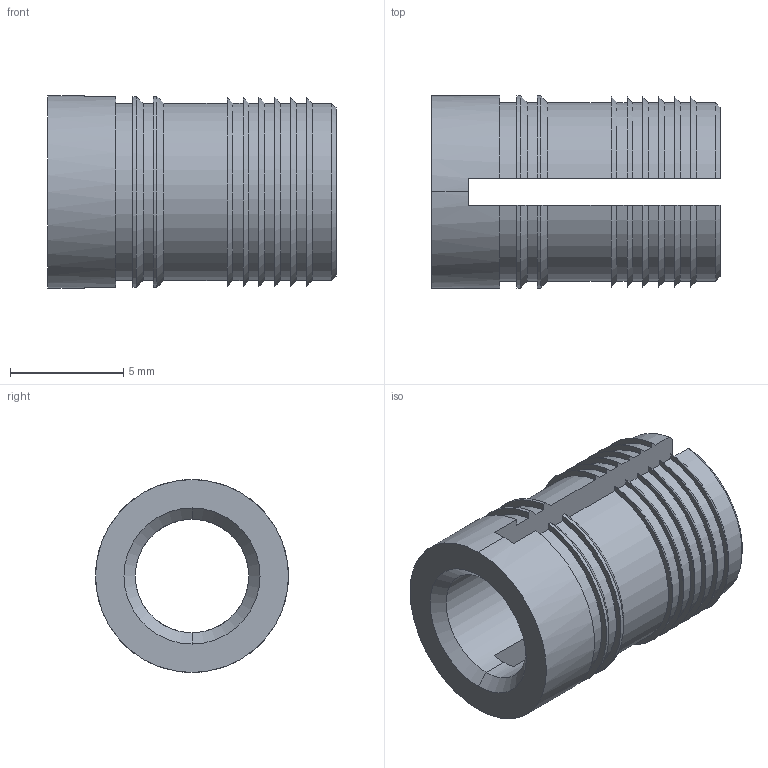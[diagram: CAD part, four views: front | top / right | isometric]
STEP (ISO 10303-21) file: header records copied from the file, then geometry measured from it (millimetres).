
FILE_DESCRIPTION (( 'STEP AP203' ), '1' );
FILE_NAME ('FSUK-EXPP-M06-S.STEP', '2021-04-15T09:25:02', ( '' ), ( '' ), 'SwSTEP 2.0', 'SolidWorks 2021', '' );
FILE_SCHEMA (( 'CONFIG_CONTROL_DESIGN' ));
Length unit declared in the file: millimetre
Products named in the file (1): FSUK-EXPP-M06-S
Bounding box: 12.7 x 8.5 x 8.5 mm (x, y, z)
Volume: 360.6 mm3; surface area: 669.9 mm2
Topology: 1 solids, 1 shells, 75 faces, 220 edges, 146 vertices
Faces by surface type: plane 27, cylinder 26, cone 22
Entity records: 2637 total; most frequent: CARTESIAN_POINT 562, ORIENTED_EDGE 440, DIRECTION 410, EDGE_CURVE 220, AXIS2_PLACEMENT_3D 154, VERTEX_POINT 146, LINE 102, VECTOR 102
